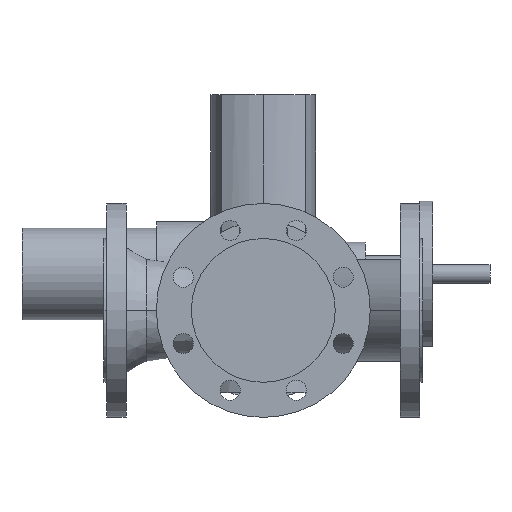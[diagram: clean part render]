
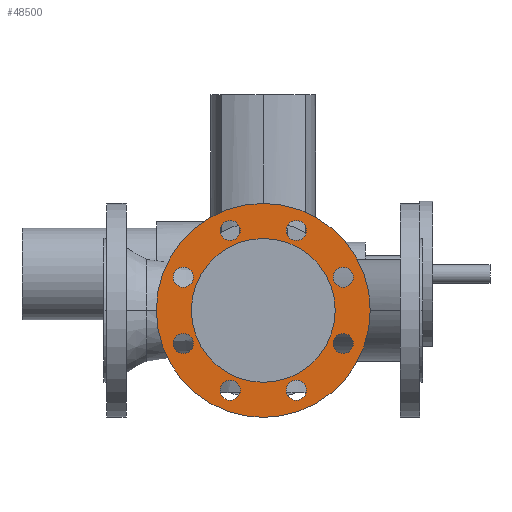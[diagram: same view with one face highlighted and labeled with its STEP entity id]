
A CAD part, front view. The second image highlights one B-rep face of the part: STEP entity #48500.
In plain terms, the highlighted planar face has unit normal (0, -1, 0).
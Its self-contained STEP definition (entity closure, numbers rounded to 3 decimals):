
#3390=CARTESIAN_POINT('',(254.,-147.,0.));
#3400=VERTEX_POINT('',#3390);
#3450=CARTESIAN_POINT('',(175.,-147.,0.));
#3460=DIRECTION('',(0.,-1.,0.));
#3470=DIRECTION('',(1.,0.,0.));
#3480=AXIS2_PLACEMENT_3D('',#3450,#3460,#3470);
#3490=CIRCLE('',#3480,79.);
#3500=CARTESIAN_POINT('',(96.,-147.,0.));
#3510=VERTEX_POINT('',#3500);
#3520=EDGE_CURVE('',#3510,#3400,#3490,.T.);
#10470=CARTESIAN_POINT('',(57.5,-147.,0.));
#10480=VERTEX_POINT('',#10470);
#10640=CARTESIAN_POINT('',(292.5,-147.,0.));
#10650=VERTEX_POINT('',#10640);
#10680=CARTESIAN_POINT('',(175.,-147.,0.));
#10690=DIRECTION('',(0.,1.,0.));
#10700=DIRECTION('',(1.,0.,0.));
#10710=AXIS2_PLACEMENT_3D('',#10680,#10690,#10700);
#10720=CIRCLE('',#10710,117.5);
#10730=EDGE_CURVE('',#10480,#10650,#10720,.T.);
#10890=CARTESIAN_POINT('',(273.769,-147.,-36.355));
#10900=VERTEX_POINT('',#10890);
#11060=CARTESIAN_POINT('',(251.769,-147.,-36.355));
#11070=VERTEX_POINT('',#11060);
#11100=CARTESIAN_POINT('',(262.769,-147.,-36.355));
#11110=DIRECTION('',(0.,1.,0.));
#11120=DIRECTION('',(1.,0.,0.));
#11130=AXIS2_PLACEMENT_3D('',#11100,#11110,#11120);
#11140=CIRCLE('',#11130,11.);
#11150=EDGE_CURVE('',#11070,#10900,#11140,.T.);
#11310=CARTESIAN_POINT('',(273.769,-147.,36.355));
#11320=VERTEX_POINT('',#11310);
#11350=CARTESIAN_POINT('',(262.769,-147.,36.355));
#11360=DIRECTION('',(0.,1.,0.));
#11370=DIRECTION('',(1.,0.,0.));
#11380=AXIS2_PLACEMENT_3D('',#11350,#11360,#11370);
#11390=CIRCLE('',#11380,11.);
#11400=CARTESIAN_POINT('',(251.769,-147.,36.355));
#11410=VERTEX_POINT('',#11400);
#11420=EDGE_CURVE('',#11320,#11410,#11390,.T.);
#11730=CARTESIAN_POINT('',(200.355,-147.,-87.769));
#11740=VERTEX_POINT('',#11730);
#11770=CARTESIAN_POINT('',(211.355,-147.,-87.769));
#11780=DIRECTION('',(0.,1.,0.));
#11790=DIRECTION('',(1.,0.,0.));
#11800=AXIS2_PLACEMENT_3D('',#11770,#11780,#11790);
#11810=CIRCLE('',#11800,11.);
#11820=CARTESIAN_POINT('',(222.355,-147.,-87.769));
#11830=VERTEX_POINT('',#11820);
#11840=EDGE_CURVE('',#11740,#11830,#11810,.T.);
#12150=CARTESIAN_POINT('',(222.355,-147.,87.769));
#12160=VERTEX_POINT('',#12150);
#12320=CARTESIAN_POINT('',(200.355,-147.,87.769));
#12330=VERTEX_POINT('',#12320);
#12360=CARTESIAN_POINT('',(211.355,-147.,87.769));
#12370=DIRECTION('',(0.,1.,0.));
#12380=DIRECTION('',(1.,0.,0.));
#12390=AXIS2_PLACEMENT_3D('',#12360,#12370,#12380);
#12400=CIRCLE('',#12390,11.);
#12410=EDGE_CURVE('',#12330,#12160,#12400,.T.);
#12570=CARTESIAN_POINT('',(127.645,-147.,-87.769));
#12580=VERTEX_POINT('',#12570);
#12740=CARTESIAN_POINT('',(149.645,-147.,-87.769));
#12750=VERTEX_POINT('',#12740);
#12780=CARTESIAN_POINT('',(138.645,-147.,-87.769));
#12790=DIRECTION('',(0.,1.,0.));
#12800=DIRECTION('',(1.,0.,0.));
#12810=AXIS2_PLACEMENT_3D('',#12780,#12790,#12800);
#12820=CIRCLE('',#12810,11.);
#12830=EDGE_CURVE('',#12750,#12580,#12820,.T.);
#12990=CARTESIAN_POINT('',(127.645,-147.,87.769));
#13000=VERTEX_POINT('',#12990);
#13160=CARTESIAN_POINT('',(149.645,-147.,87.769));
#13170=VERTEX_POINT('',#13160);
#13200=CARTESIAN_POINT('',(138.645,-147.,87.769));
#13210=DIRECTION('',(0.,1.,0.));
#13220=DIRECTION('',(1.,0.,0.));
#13230=AXIS2_PLACEMENT_3D('',#13200,#13210,#13220);
#13240=CIRCLE('',#13230,11.);
#13250=EDGE_CURVE('',#13170,#13000,#13240,.T.);
#13410=CARTESIAN_POINT('',(98.231,-147.,-36.355));
#13420=VERTEX_POINT('',#13410);
#13580=CARTESIAN_POINT('',(76.231,-147.,-36.355));
#13590=VERTEX_POINT('',#13580);
#13620=CARTESIAN_POINT('',(87.231,-147.,-36.355));
#13630=DIRECTION('',(0.,1.,0.));
#13640=DIRECTION('',(1.,0.,0.));
#13650=AXIS2_PLACEMENT_3D('',#13620,#13630,#13640);
#13660=CIRCLE('',#13650,11.);
#13670=EDGE_CURVE('',#13590,#13420,#13660,.T.);
#13830=CARTESIAN_POINT('',(76.231,-147.,36.355));
#13840=VERTEX_POINT('',#13830);
#13870=CARTESIAN_POINT('',(87.231,-147.,36.355));
#13880=DIRECTION('',(0.,1.,0.));
#13890=DIRECTION('',(1.,0.,0.));
#13900=AXIS2_PLACEMENT_3D('',#13870,#13880,#13890);
#13910=CIRCLE('',#13900,11.);
#13920=CARTESIAN_POINT('',(98.231,-147.,36.355));
#13930=VERTEX_POINT('',#13920);
#13940=EDGE_CURVE('',#13840,#13930,#13910,.T.);
#47950=CARTESIAN_POINT('',(175.,-147.,0.));
#47960=DIRECTION('',(0.,1.,0.));
#47970=DIRECTION('',(0.,0.,1.));
#47980=AXIS2_PLACEMENT_3D('',#47950,#47960,#47970);
#47990=PLANE('',#47980);
#48000=EDGE_CURVE('',#13930,#13840,#13910,.T.);
#48010=ORIENTED_EDGE('',*,*,#48000,.T.);
#48020=ORIENTED_EDGE('',*,*,#13940,.T.);
#48030=EDGE_LOOP('',(#48020,#48010));
#48040=FACE_BOUND('',#48030,.T.);
#48050=EDGE_CURVE('',#13420,#13590,#13660,.T.);
#48060=ORIENTED_EDGE('',*,*,#48050,.T.);
#48070=ORIENTED_EDGE('',*,*,#13670,.T.);
#48080=EDGE_LOOP('',(#48070,#48060));
#48090=FACE_BOUND('',#48080,.T.);
#48100=EDGE_CURVE('',#13000,#13170,#13240,.T.);
#48110=ORIENTED_EDGE('',*,*,#48100,.T.);
#48120=ORIENTED_EDGE('',*,*,#13250,.T.);
#48130=EDGE_LOOP('',(#48120,#48110));
#48140=FACE_BOUND('',#48130,.T.);
#48150=EDGE_CURVE('',#12580,#12750,#12820,.T.);
#48160=ORIENTED_EDGE('',*,*,#48150,.T.);
#48170=ORIENTED_EDGE('',*,*,#12830,.T.);
#48180=EDGE_LOOP('',(#48170,#48160));
#48190=FACE_BOUND('',#48180,.T.);
#48200=EDGE_CURVE('',#12160,#12330,#12400,.T.);
#48210=ORIENTED_EDGE('',*,*,#48200,.T.);
#48220=ORIENTED_EDGE('',*,*,#12410,.T.);
#48230=EDGE_LOOP('',(#48220,#48210));
#48240=FACE_BOUND('',#48230,.T.);
#48250=ORIENTED_EDGE('',*,*,#11840,.T.);
#48260=EDGE_CURVE('',#11830,#11740,#11810,.T.);
#48270=ORIENTED_EDGE('',*,*,#48260,.T.);
#48280=EDGE_LOOP('',(#48270,#48250));
#48290=FACE_BOUND('',#48280,.T.);
#48300=ORIENTED_EDGE('',*,*,#11420,.T.);
#48310=EDGE_CURVE('',#11410,#11320,#11390,.T.);
#48320=ORIENTED_EDGE('',*,*,#48310,.T.);
#48330=EDGE_LOOP('',(#48320,#48300));
#48340=FACE_BOUND('',#48330,.T.);
#48350=EDGE_CURVE('',#10900,#11070,#11140,.T.);
#48360=ORIENTED_EDGE('',*,*,#48350,.T.);
#48370=ORIENTED_EDGE('',*,*,#11150,.T.);
#48380=EDGE_LOOP('',(#48370,#48360));
#48390=FACE_BOUND('',#48380,.T.);
#48400=EDGE_CURVE('',#10650,#10480,#10720,.T.);
#48410=ORIENTED_EDGE('',*,*,#48400,.F.);
#48420=ORIENTED_EDGE('',*,*,#10730,.F.);
#48430=EDGE_LOOP('',(#48420,#48410));
#48440=FACE_OUTER_BOUND('',#48430,.T.);
#48450=EDGE_CURVE('',#3400,#3510,#3490,.T.);
#48460=ORIENTED_EDGE('',*,*,#48450,.F.);
#48470=ORIENTED_EDGE('',*,*,#3520,.F.);
#48480=EDGE_LOOP('',(#48470,#48460));
#48490=FACE_BOUND('',#48480,.T.);
#48500=ADVANCED_FACE('',(#48040,#48090,#48140,#48190,#48240,#48290,
#48340,#48390,#48440,#48490),#47990,.F.);
